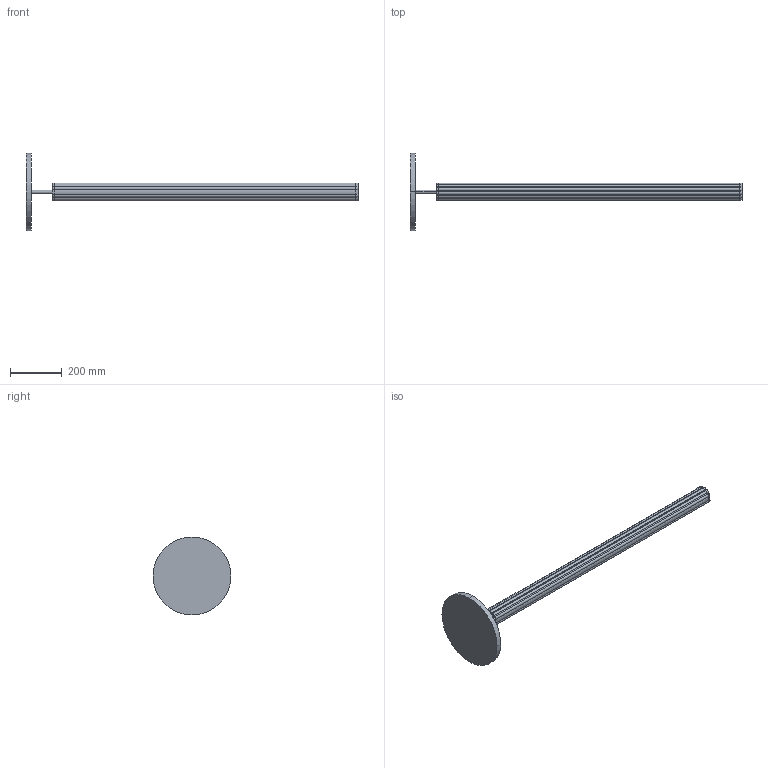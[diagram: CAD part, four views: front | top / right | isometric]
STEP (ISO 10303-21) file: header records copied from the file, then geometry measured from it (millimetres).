
FILE_DESCRIPTION (( 'STEP AP214' ), '1' );
FILE_NAME ('P1314.STEP', '2023-07-20T15:01:14', ( '' ), ( '' ), 'SwSTEP 2.0', 'SolidWorks 2018', '' );
FILE_SCHEMA (( 'AUTOMOTIVE_DESIGN' ));
Length unit declared in the file: millimetre
Products named in the file (1): P1314
Bounding box: 1278 x 300 x 300 mm (x, y, z)
Volume: 5381949.8 mm3; surface area: 507810.6 mm2
Topology: 5 solids, 5 shells, 117 faces, 315 edges, 210 vertices
Faces by surface type: cylinder 99, plane 18
Entity records: 3857 total; most frequent: DIRECTION 749, CARTESIAN_POINT 643, ORIENTED_EDGE 630, AXIS2_PLACEMENT_3D 316, EDGE_CURVE 315, VERTEX_POINT 210, CIRCLE 198, EDGE_LOOP 119
